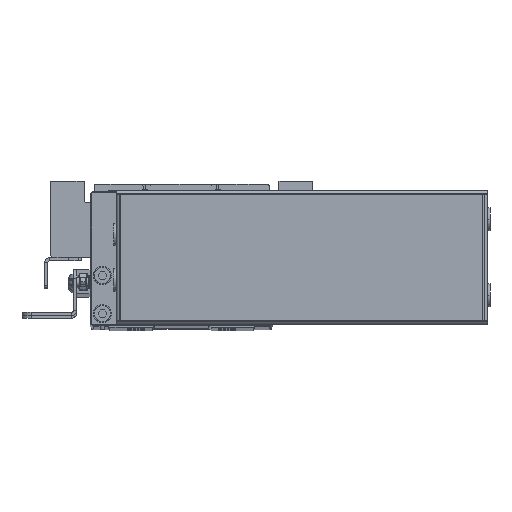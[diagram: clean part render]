
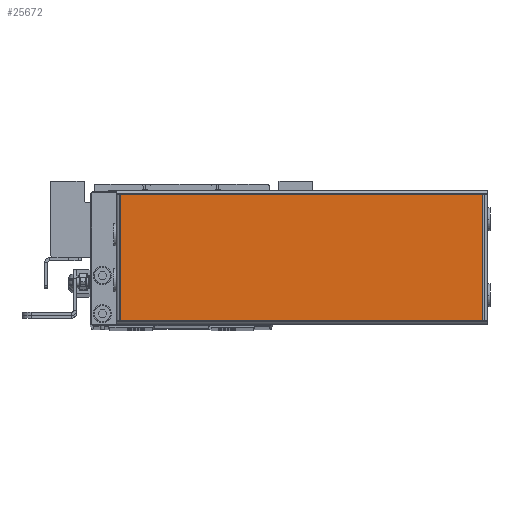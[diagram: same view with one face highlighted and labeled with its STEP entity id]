
A CAD part, top view. The second image highlights one B-rep face of the part: STEP entity #25672.
In plain terms, the highlighted planar face has unit normal (0, 0, 1) as drawn and (0, 0, -1) by its records, which use the part's own axes.
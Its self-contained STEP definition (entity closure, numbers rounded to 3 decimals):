
#729 = EDGE_CURVE ( 'NONE', #16931, #69148, #17412, .T. ) ;
#4036 = PLANE ( 'NONE',  #27422 ) ;
#6419 = VECTOR ( 'NONE', #66115, 1000. ) ;
#6814 = ORIENTED_EDGE ( 'NONE', *, *, #28692, .T. ) ;
#9324 = DIRECTION ( 'NONE',  ( -1., 0., 0. ) ) ;
#12919 = CARTESIAN_POINT ( 'NONE',  ( 1.5, 1.3, -1. ) ) ;
#14339 = EDGE_CURVE ( 'NONE', #69148, #42032, #15532, .T. ) ;
#14931 = DIRECTION ( 'NONE',  ( -1., 0., 0. ) ) ;
#15160 = DIRECTION ( 'NONE',  ( 0., 0., -1. ) ) ;
#15532 = LINE ( 'NONE', #55303, #53574 ) ;
#16931 = VERTEX_POINT ( 'NONE', #35430 ) ;
#17412 = LINE ( 'NONE', #12919, #6419 ) ;
#22148 = ORIENTED_EDGE ( 'NONE', *, *, #729, .T. ) ;
#25089 = VECTOR ( 'NONE', #9324, 1000. ) ;
#25672 = ADVANCED_FACE ( 'NONE', ( #63660 ), #4036, .T. ) ;
#27422 = AXIS2_PLACEMENT_3D ( 'NONE', #41860, #15160, #14931 ) ;
#28692 = EDGE_CURVE ( 'NONE', #42032, #31822, #44815, .T. ) ;
#31822 = VERTEX_POINT ( 'NONE', #62046 ) ;
#33511 = ORIENTED_EDGE ( 'NONE', *, *, #14339, .T. ) ;
#33591 = CARTESIAN_POINT ( 'NONE',  ( 1.5, 42.7, -1. ) ) ;
#35430 = CARTESIAN_POINT ( 'NONE',  ( 1.5, 1.3, -1. ) ) ;
#36296 = DIRECTION ( 'NONE',  ( 0., -1., 0. ) ) ;
#41860 = CARTESIAN_POINT ( 'NONE',  ( 0., 0., -1. ) ) ;
#42032 = VERTEX_POINT ( 'NONE', #69392 ) ;
#44815 = LINE ( 'NONE', #57171, #45624 ) ;
#45624 = VECTOR ( 'NONE', #36296, 1000. ) ;
#46576 = ORIENTED_EDGE ( 'NONE', *, *, #64442, .T. ) ;
#53574 = VECTOR ( 'NONE', #60525, 1000. ) ;
#55303 = CARTESIAN_POINT ( 'NONE',  ( 0., 42.7, -1. ) ) ;
#57171 = CARTESIAN_POINT ( 'NONE',  ( 120.5, 42.7, -1. ) ) ;
#59368 = EDGE_LOOP ( 'NONE', ( #33511, #6814, #46576, #22148 ) ) ;
#60525 = DIRECTION ( 'NONE',  ( 1., 0., 0. ) ) ;
#62046 = CARTESIAN_POINT ( 'NONE',  ( 120.5, 1.3, -1. ) ) ;
#62336 = LINE ( 'NONE', #68668, #25089 ) ;
#63660 = FACE_OUTER_BOUND ( 'NONE', #59368, .T. ) ;
#64442 = EDGE_CURVE ( 'NONE', #31822, #16931, #62336, .T. ) ;
#66115 = DIRECTION ( 'NONE',  ( 0., 1., 0. ) ) ;
#68668 = CARTESIAN_POINT ( 'NONE',  ( 122., 1.3, -1. ) ) ;
#69148 = VERTEX_POINT ( 'NONE', #33591 ) ;
#69392 = CARTESIAN_POINT ( 'NONE',  ( 120.5, 42.7, -1. ) ) ;
